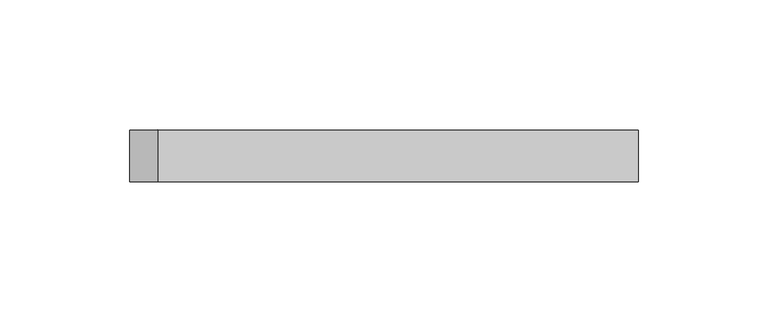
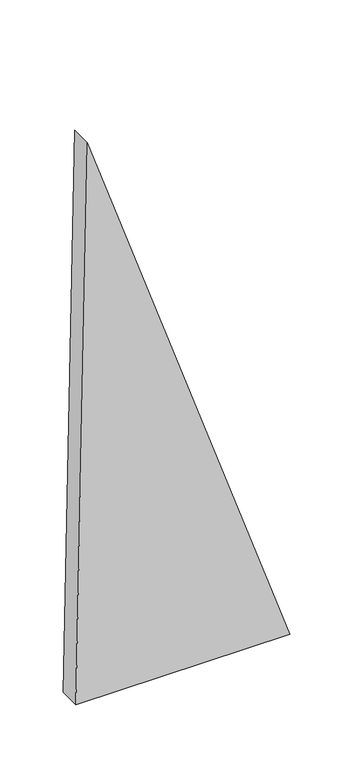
"""IFC4 building model written with IfcOpenShell, lengths in millimetres: plate geometry, 空系统嵌板 : 空."""

import ifcopenshell
import ifcopenshell.guid

model = None  # the IFC model being written
_history = None  # IfcOwnerHistory: only IFC2X3 demands one
_inside = {}  # id of a spatial element -> (the spatial element, [elements in it])
_under = {}  # id of a project, library or spatial element -> (it, [spatial elements below it])
_declared = {}  # id of a project -> (the project, [libraries it declares])
_typed = {}  # id of a type object -> (the type object, [elements of that type])
_made_of = {}  # id of a material, layer set ... -> (it, [elements and type objects made of it])


def new_model(schema):
    """Start an empty IFC model of exactly this schema.

    Asked for "IFC4X3", IfcOpenShell would pick the latest addendum, in which some entities
    have other attributes; the version numbers below select the first issue.
    IFC2X3 requires an IfcOwnerHistory on every rooted entity: one is made here for all.
    """
    global model, _history
    if schema == "IFC4X3":
        model = ifcopenshell.file(schema_version=(4, 3, 0, 0))
    else:
        model = ifcopenshell.file(schema=schema)
    _inside.clear()
    _under.clear()
    _declared.clear()
    _typed.clear()
    _made_of.clear()
    _history = None
    if model.schema == "IFC2X3":
        org = make("IfcOrganization", Name="unknown")
        user = make(
            "IfcPersonAndOrganization",
            ThePerson=make("IfcPerson", FamilyName="unknown"),
            TheOrganization=org,
        )
        app = make(
            "IfcApplication",
            ApplicationDeveloper=org,
            Version="unknown",
            ApplicationFullName="unknown",
            ApplicationIdentifier="unknown",
        )
        _history = make(
            "IfcOwnerHistory",
            OwningUser=user,
            OwningApplication=app,
            ChangeAction="ADDED",
            CreationDate=0,
        )
    return model


def make(cls, **values):
    """One entity of the class cls with the attributes given. An attribute that is None is left unset."""
    return model.create_entity(
        cls, **{name: value for name, value in values.items() if value is not None}
    )


def rooted(cls, **values):
    """An entity with a GlobalId (a new one), such as an element, a storey or a relation."""
    return make(cls, GlobalId=ifcopenshell.guid.new(), OwnerHistory=_history, **values)


def si_unit(unit_type, name, prefix=None):
    """IfcSIUnit, for example si_unit("LENGTHUNIT", "METRE", prefix="MILLI")."""
    return make("IfcSIUnit", UnitType=unit_type, Prefix=prefix, Name=name)


def assignment(units):
    """IfcUnitAssignment: the units of a project."""
    return None if units is None else make("IfcUnitAssignment", Units=units)


def point(xyz):
    """IfcCartesianPoint."""
    return None if xyz is None else make("IfcCartesianPoint", Coordinates=xyz)


def direction(xyz):
    """IfcDirection."""
    return None if xyz is None else make("IfcDirection", DirectionRatios=xyz)


def frame(location, z_axis=None, x_axis=None):
    """IfcAxis2Placement3D, a coordinate frame: its origin and axes. An axis left out is left unset."""
    return make(
        "IfcAxis2Placement3D",
        Location=point(location),
        Axis=direction(z_axis),
        RefDirection=direction(x_axis),
    )


def origin():
    """The frame at (0, 0, 0) with its axes left unset."""
    return frame((0.0, 0.0, 0.0))


def place(relative_to, where):
    """IfcLocalPlacement: puts the frame where relative to a parent placement (None: the world)."""
    return make(
        "IfcLocalPlacement", PlacementRelTo=relative_to, RelativePlacement=where
    )


def context(
    kind, dimensions, precision=None, world=None, true_north=None, identifier=None
):
    """IfcGeometricRepresentationContext, for example the 3D "Model" context."""
    return make(
        "IfcGeometricRepresentationContext",
        ContextIdentifier=identifier,
        ContextType=kind,
        CoordinateSpaceDimension=dimensions,
        Precision=precision,
        WorldCoordinateSystem=world,
        TrueNorth=true_north,
    )


def project(units=None, contexts=None):
    """IfcProject with its units and contexts."""
    return rooted(
        "IfcProject",
        Name="project",
        RepresentationContexts=contexts,
        UnitsInContext=assignment(units),
    )


def spatial(cls, under=None, at=None, **own):
    """A site, building, storey or space (cls), placed at a placement, below another one or the project."""
    s = rooted(cls, ObjectPlacement=at, **own)
    if under is not None:
        _under.setdefault(under.id(), (under, []))[1].append(s)
    return s


def polyline(points):
    """IfcPolyline through the points."""
    return make("IfcPolyline", Points=[point(p) for p in points])


def outline(outer, holes=None, kind="AREA"):
    """IfcArbitraryClosedProfileDef: a profile drawn as a closed curve; with holes, ...WithVoids."""
    if holes is None:
        return make("IfcArbitraryClosedProfileDef", ProfileType=kind, OuterCurve=outer)
    return make(
        "IfcArbitraryProfileDefWithVoids",
        ProfileType=kind,
        OuterCurve=outer,
        InnerCurves=holes,
    )


def extrude(swept, where, along, depth):
    """IfcExtrudedAreaSolid: the profile swept, set in the frame where, extruded along a direction by depth."""
    return make(
        "IfcExtrudedAreaSolid",
        SweptArea=swept,
        Position=where,
        ExtrudedDirection=direction(along),
        Depth=depth,
    )


def shape(context_of_items, identifier, shape_type, items):
    """IfcShapeRepresentation: the items that make up one representation, for example the "Body"."""
    return make(
        "IfcShapeRepresentation",
        ContextOfItems=context_of_items,
        RepresentationIdentifier=identifier,
        RepresentationType=shape_type,
        Items=items,
    )


def source(mapping_origin, context_of_items, identifier, shape_type, items):
    """IfcRepresentationMap: a shape defined once, which mapped items show again and again."""
    return make(
        "IfcRepresentationMap",
        MappingOrigin=mapping_origin,
        MappedRepresentation=shape(context_of_items, identifier, shape_type, items),
    )


def transform(
    local_origin,
    x_axis=None,
    y_axis=None,
    z_axis=None,
    scale=None,
    scale2=None,
    scale3=None,
    uniform=True,
):
    """IfcCartesianTransformationOperator3D, or its non-uniform kind. x_axis, y_axis, z_axis: its Axis1, 2, 3."""
    if uniform:
        return make(
            "IfcCartesianTransformationOperator3D",
            Axis1=direction(x_axis),
            Axis2=direction(y_axis),
            LocalOrigin=point(local_origin),
            Scale=scale,
            Axis3=direction(z_axis),
        )
    return make(
        "IfcCartesianTransformationOperator3DnonUniform",
        Axis1=direction(x_axis),
        Axis2=direction(y_axis),
        LocalOrigin=point(local_origin),
        Scale=scale,
        Axis3=direction(z_axis),
        Scale2=scale2,
        Scale3=scale3,
    )


def mapped(mapping_source, mapping_target):
    """IfcMappedItem: shows the shape of a source again, moved by a transform."""
    return make(
        "IfcMappedItem", MappingSource=mapping_source, MappingTarget=mapping_target
    )


def made_of(thing, what):
    """Note that an element or type object is made of a material, layer set ...; save() writes the relation."""
    if what is not None:
        _made_of.setdefault(what.id(), (what, []))[1].append(thing)
    return thing


def element(
    cls,
    number,
    at=None,
    inside=None,
    cuts=None,
    type_object=None,
    material=None,
    context=None,
    identifier="Body",
    shape_type=None,
    held_by="IfcProductDefinitionShape",
    body=None,
    shapes=None,
    **own,
):
    """One element of the class cls, such as IfcWall. Its Tag is "e" and its number.

    at: its placement. inside: the storey or other place that contains it. cuts: it is an
    opening in that element (IfcRelVoidsElement). A single representation is given by context,
    identifier, shape_type and body (its items); several are given by shapes. held_by: the class
    of the entity that holds the representations. save() writes the other relations.
    """
    e = rooted(cls, Tag="e%d" % number, ObjectPlacement=at, **own)
    if body is not None:
        shapes = [shape(context, identifier, shape_type, body)]
    if shapes is not None:
        e.Representation = make(held_by, Representations=shapes)
    if inside is not None:
        _inside.setdefault(inside.id(), (inside, []))[1].append(e)
    if cuts is not None:
        rooted(
            "IfcRelVoidsElement", RelatingBuildingElement=cuts, RelatedOpeningElement=e
        )
    if type_object is not None:
        _typed.setdefault(type_object.id(), (type_object, []))[1].append(e)
    return made_of(e, material)


def aggregate(whole, parts):
    """IfcRelAggregates: a whole, such as a stair, and the parts it consists of."""
    return rooted("IfcRelAggregates", RelatingObject=whole, RelatedObjects=parts)


def save(model, path):
    """Write the relations noted so far, then the file.

    IfcRelAggregates (storeys below a building ...), IfcRelContainedInSpatialStructure (elements
    in a storey), IfcRelDefinesByType, IfcRelAssociatesMaterial and IfcRelDeclares: one each for
    every whole, place, type object, material and project.
    """
    for whole, parts in _under.values():
        aggregate(whole, parts)
    for where, things in _inside.values():
        rooted(
            "IfcRelContainedInSpatialStructure",
            RelatedElements=things,
            RelatingStructure=where,
        )
    for kind, things in _typed.values():
        rooted("IfcRelDefinesByType", RelatedObjects=things, RelatingType=kind)
    for what, things in _made_of.values():
        rooted("IfcRelAssociatesMaterial", RelatedObjects=things, RelatingMaterial=what)
    for by, libraries in _declared.values():
        rooted("IfcRelDeclares", RelatingContext=by, RelatedDefinitions=libraries)
    model.write(path)


def plate_51358e00(model_context):
    return source(origin(), model_context, "Body", "SweptSolid", [
        extrude(outline(polyline([(0.2179773, -97.9301662), (0.0, 97.9301662), (540.3198479, -87.2439092), (0.2179773, -97.9301662)])), frame((0.0, -10.0, 0.0), z_axis=(0.0, 1.0, 0.0), x_axis=(0.0, 0.0, 1.0)), (0.0, 0.0, 1.0), 20.0),
    ])


if __name__ == "__main__":
    model = new_model("IFC4")
    model_context = context("Model", 3, world=origin())
    ifc_project = project(units=[si_unit("LENGTHUNIT", "METRE", prefix="MILLI")], contexts=[model_context])
    site = spatial("IfcSite", under=ifc_project)
    building = spatial("IfcBuilding", under=site)
    placement = place(None, origin())
    plate_shape = plate_51358e00(model_context)
    element("IfcPlate", 1, ObjectType="空系统嵌板 : 空", at=placement, inside=building, context=model_context, shape_type="MappedRepresentation", body=[
        mapped(plate_shape, transform((0.0, 0.0, 0.0), x_axis=(1.0, 0.0, 0.0), y_axis=(0.0, 1.0, 0.0), z_axis=(0.0, 0.0, 1.0))),
    ])
    save(model, "model.ifc")
